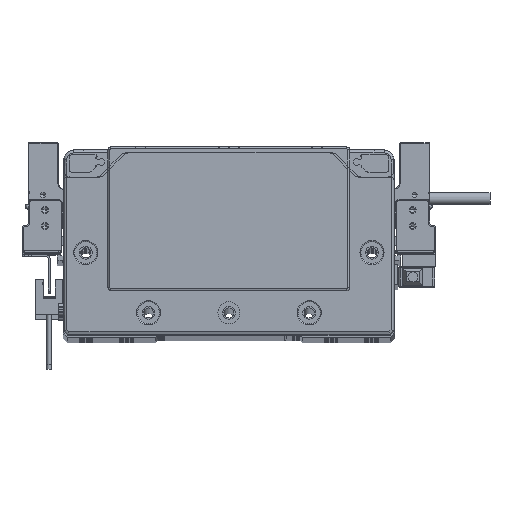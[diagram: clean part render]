
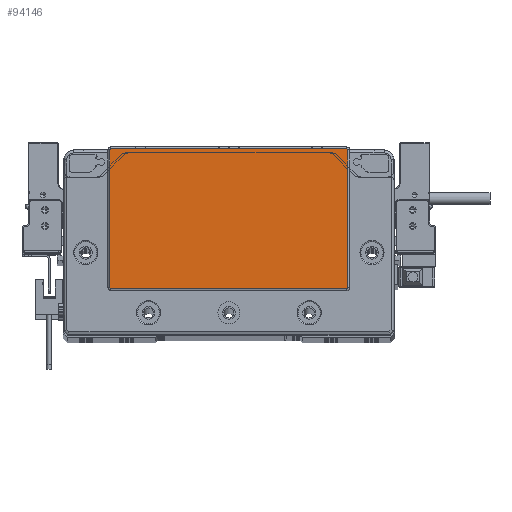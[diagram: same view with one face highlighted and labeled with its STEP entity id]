
A CAD part, top view. The second image highlights one B-rep face of the part: STEP entity #94146.
In plain terms, the highlighted planar face has unit normal (0, 0, 1) as drawn and (0, 0, -1) by its records, which use the part's own axes.
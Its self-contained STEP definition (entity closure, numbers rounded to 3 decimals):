
#3 = CARTESIAN_POINT ( 'NONE',  ( 58.75, 45.8, -2. ) ) ;
#4493 = AXIS2_PLACEMENT_3D ( 'NONE', #74822, #66645, #73193 ) ;
#4569 = ORIENTED_EDGE ( 'NONE', *, *, #68307, .T. ) ;
#5061 = AXIS2_PLACEMENT_3D ( 'NONE', #40824, #74204, #107636 ) ;
#5289 = LINE ( 'NONE', #72091, #12903 ) ;
#9875 = CARTESIAN_POINT ( 'NONE',  ( -59.25, -23.3, -2. ) ) ;
#11591 = CARTESIAN_POINT ( 'NONE',  ( 58.75, -23.8, -2. ) ) ;
#11661 = DIRECTION ( 'NONE',  ( -1., 0., 0. ) ) ;
#11822 = DIRECTION ( 'NONE',  ( 0., 0., -1. ) ) ;
#12903 = VECTOR ( 'NONE', #15658, 1000. ) ;
#13452 = DIRECTION ( 'NONE',  ( -1., 0., 0. ) ) ;
#15658 = DIRECTION ( 'NONE',  ( 0., -1., 0. ) ) ;
#16453 = EDGE_CURVE ( 'NONE', #53745, #22297, #49231, .T. ) ;
#18637 = EDGE_CURVE ( 'NONE', #18870, #103639, #24291, .T. ) ;
#18870 = VERTEX_POINT ( 'NONE', #11591 ) ;
#21579 = ORIENTED_EDGE ( 'NONE', *, *, #89010, .T. ) ;
#22297 = VERTEX_POINT ( 'NONE', #94314 ) ;
#22606 = CARTESIAN_POINT ( 'NONE',  ( -58.75, -23.3, -2. ) ) ;
#23420 = CARTESIAN_POINT ( 'NONE',  ( -59.25, 45.3, -2. ) ) ;
#24291 = LINE ( 'NONE', #49514, #31867 ) ;
#28842 = FACE_OUTER_BOUND ( 'NONE', #62224, .T. ) ;
#29778 = DIRECTION ( 'NONE',  ( 0., 0., -1. ) ) ;
#31018 = ORIENTED_EDGE ( 'NONE', *, *, #81508, .T. ) ;
#31867 = VECTOR ( 'NONE', #71958, 1000. ) ;
#36876 = VECTOR ( 'NONE', #75552, 1000. ) ;
#40824 = CARTESIAN_POINT ( 'NONE',  ( 58.75, -23.3, -2. ) ) ;
#41374 = CARTESIAN_POINT ( 'NONE',  ( -59.25, 45.3, -2. ) ) ;
#42589 = CIRCLE ( 'NONE', #68847, 0.5 ) ;
#45712 = AXIS2_PLACEMENT_3D ( 'NONE', #100767, #75549, #107354 ) ;
#48786 = VERTEX_POINT ( 'NONE', #9875 ) ;
#49231 = CIRCLE ( 'NONE', #45712, 0.5 ) ;
#49514 = CARTESIAN_POINT ( 'NONE',  ( -58.75, -23.8, -2. ) ) ;
#51626 = CARTESIAN_POINT ( 'NONE',  ( 59.25, -23.3, -2. ) ) ;
#51764 = CIRCLE ( 'NONE', #4493, 0.5 ) ;
#53745 = VERTEX_POINT ( 'NONE', #85818 ) ;
#54586 = CARTESIAN_POINT ( 'NONE',  ( 0., 0., -2. ) ) ;
#60375 = CARTESIAN_POINT ( 'NONE',  ( -58.75, -23.8, -2. ) ) ;
#62224 = EDGE_LOOP ( 'NONE', ( #87212, #107908, #91794, #31018, #91765, #4569, #21579, #100915 ) ) ;
#66645 = DIRECTION ( 'NONE',  ( 0., 0., -1. ) ) ;
#68307 = EDGE_CURVE ( 'NONE', #93279, #106081, #51764, .T. ) ;
#68847 = AXIS2_PLACEMENT_3D ( 'NONE', #22606, #29778, #11661 ) ;
#71958 = DIRECTION ( 'NONE',  ( -1., 0., 0. ) ) ;
#72091 = CARTESIAN_POINT ( 'NONE',  ( 59.25, -23.3, -2. ) ) ;
#73193 = DIRECTION ( 'NONE',  ( -1., 0., 0. ) ) ;
#74204 = DIRECTION ( 'NONE',  ( 0., 0., -1. ) ) ;
#74822 = CARTESIAN_POINT ( 'NONE',  ( -58.75, 45.3, -2. ) ) ;
#74986 = LINE ( 'NONE', #3, #36876 ) ;
#75549 = DIRECTION ( 'NONE',  ( 0., 0., -1. ) ) ;
#75552 = DIRECTION ( 'NONE',  ( 1., 0., 0. ) ) ;
#78627 = PLANE ( 'NONE',  #96906 ) ;
#81508 = EDGE_CURVE ( 'NONE', #103639, #48786, #42589, .T. ) ;
#82034 = EDGE_CURVE ( 'NONE', #22297, #89745, #5289, .T. ) ;
#82541 = LINE ( 'NONE', #23420, #105451 ) ;
#85818 = CARTESIAN_POINT ( 'NONE',  ( 58.75, 45.8, -2. ) ) ;
#87132 = EDGE_CURVE ( 'NONE', #89745, #18870, #106467, .T. ) ;
#87212 = ORIENTED_EDGE ( 'NONE', *, *, #82034, .T. ) ;
#89010 = EDGE_CURVE ( 'NONE', #106081, #53745, #74986, .T. ) ;
#89745 = VERTEX_POINT ( 'NONE', #51626 ) ;
#91326 = DIRECTION ( 'NONE',  ( 0., 1., 0. ) ) ;
#91765 = ORIENTED_EDGE ( 'NONE', *, *, #92851, .T. ) ;
#91794 = ORIENTED_EDGE ( 'NONE', *, *, #18637, .T. ) ;
#92851 = EDGE_CURVE ( 'NONE', #48786, #93279, #82541, .T. ) ;
#93279 = VERTEX_POINT ( 'NONE', #41374 ) ;
#94146 = ADVANCED_FACE ( 'NONE', ( #28842 ), #78627, .T. ) ;
#94314 = CARTESIAN_POINT ( 'NONE',  ( 59.25, 45.3, -2. ) ) ;
#96906 = AXIS2_PLACEMENT_3D ( 'NONE', #54586, #11822, #13452 ) ;
#100767 = CARTESIAN_POINT ( 'NONE',  ( 58.75, 45.3, -2. ) ) ;
#100915 = ORIENTED_EDGE ( 'NONE', *, *, #16453, .T. ) ;
#103639 = VERTEX_POINT ( 'NONE', #60375 ) ;
#105231 = CARTESIAN_POINT ( 'NONE',  ( -58.75, 45.8, -2. ) ) ;
#105451 = VECTOR ( 'NONE', #91326, 1000. ) ;
#106081 = VERTEX_POINT ( 'NONE', #105231 ) ;
#106467 = CIRCLE ( 'NONE', #5061, 0.5 ) ;
#107354 = DIRECTION ( 'NONE',  ( -1., 0., 0. ) ) ;
#107636 = DIRECTION ( 'NONE',  ( -1., 0., 0. ) ) ;
#107908 = ORIENTED_EDGE ( 'NONE', *, *, #87132, .T. ) ;
